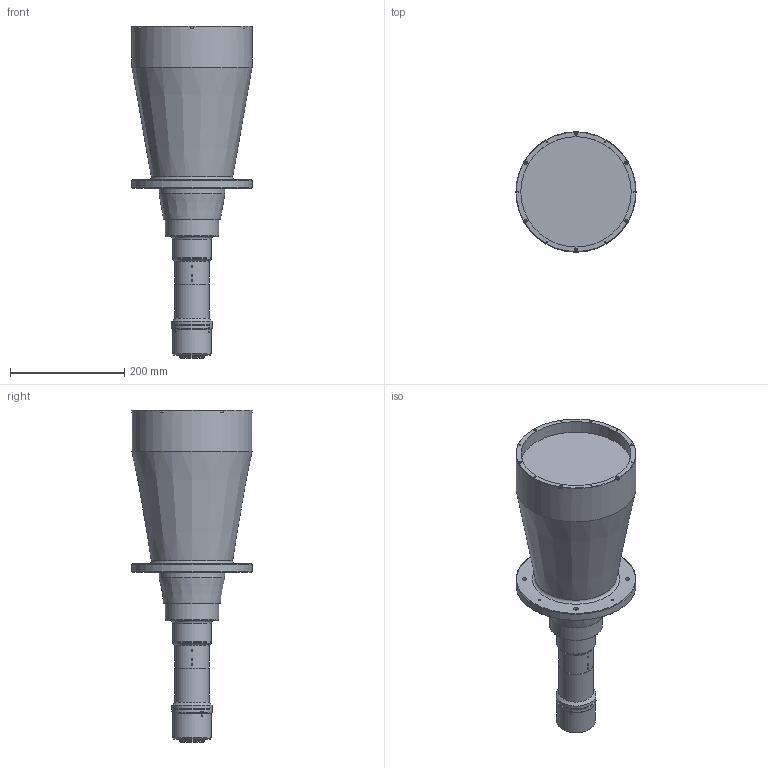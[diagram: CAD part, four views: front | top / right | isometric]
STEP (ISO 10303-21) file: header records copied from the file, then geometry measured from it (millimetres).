
FILE_DESCRIPTION (( 'STEP AP203' ), '1' );
FILE_NAME ('3d_mtl-18035p-019_a002.STEP', '2017-06-23T04:08:10', ( '' ), ( '' ), 'SwSTEP 2.0', 'SolidWorks 2014', '' );
FILE_SCHEMA (( 'CONFIG_CONTROL_DESIGN' ));
Length unit declared in the file: millimetre
Products named in the file (1): 3d_mtl-18035p-019_a002
Bounding box: 210 x 210 x 580.39 mm (x, y, z)
Volume: 8427146.5 mm3; surface area: 356091.6 mm2
Topology: 1 solids, 9 shells, 813 faces, 1890 edges, 1154 vertices
Faces by surface type: plane 479, cone 203, cylinder 92, torus 31, sphere 8
Full cylindrical faces by diameter (mm): 1.5 x6, 1.6 x4, 2.5 x3, 3.2 x4, 3.5 x8, 3.8 x3, 4.2 x4, 5.5 x10, 6.5 x4, 8 x4, 39 x1, 40.916 x1, 41.5 x1, 42 x1, 43 x1, 45 x1, 47 x1, 49 x1, 50 x1, 53 x1, 53.5 x1, 57.5 x1, 59 x1, 60 x2, 68 x3, 68.686 x1, 69.5 x1, 70 x2, 83 x1, 93 x1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
Entity records: 22189 total; most frequent: CARTESIAN_POINT 4882, DIRECTION 3720, ORIENTED_EDGE 3208, EDGE_CURVE 1604, AXIS2_PLACEMENT_3D 1495, EDGE_LOOP 1097, VERTEX_POINT 1065, FACE_OUTER_BOUND 929
